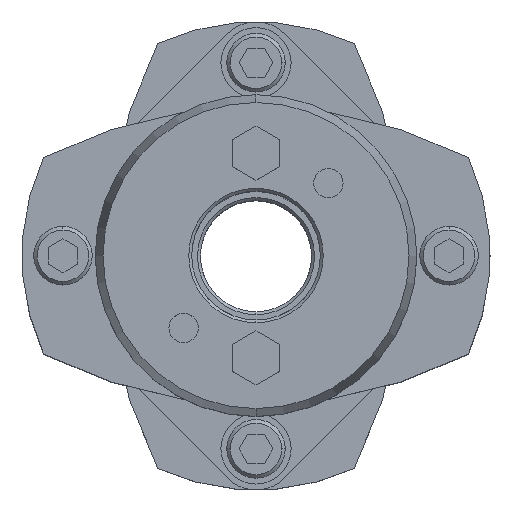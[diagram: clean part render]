
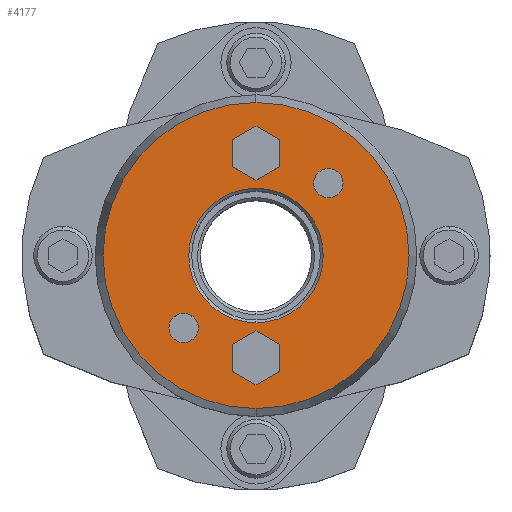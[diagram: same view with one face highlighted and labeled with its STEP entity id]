
A CAD part, top view. The second image highlights one B-rep face of the part: STEP entity #4177.
In plain terms, the highlighted planar face has unit normal (0, 0, 1).
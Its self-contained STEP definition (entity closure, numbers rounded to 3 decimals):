
#2291=CARTESIAN_POINT('',(0.,11.5,45.25));
#2292=VERTEX_POINT('',#2291);
#2308=CARTESIAN_POINT('',(0.,-11.5,45.25));
#2309=VERTEX_POINT('',#2308);
#2316=CARTESIAN_POINT('',(0.,0.,45.25));
#2317=DIRECTION('',(0.0,0.0,1.0));
#2318=DIRECTION('',(0.,1.0,0.0));
#2319=AXIS2_PLACEMENT_3D('',#2316,#2317,#2318);
#2320=CIRCLE('',#2319,11.5);
#2321=EDGE_CURVE('',#2309,#2292,#2320,.T.);
#2479=CARTESIAN_POINT('',(0.,-26.16,45.25));
#2480=VERTEX_POINT('',#2479);
#2487=CARTESIAN_POINT('',(0.,26.16,45.25));
#2488=VERTEX_POINT('',#2487);
#2489=CARTESIAN_POINT('',(0.,0.,45.25));
#2490=DIRECTION('',(0.0,0.0,-1.0));
#2491=DIRECTION('',(0.,-1.0,0.0));
#2492=AXIS2_PLACEMENT_3D('',#2489,#2490,#2491);
#2493=CIRCLE('',#2492,26.16);
#2494=EDGE_CURVE('',#2480,#2488,#2493,.T.);
#2589=CARTESIAN_POINT('',(12.374,14.874,45.25));
#2590=VERTEX_POINT('',#2589);
#2606=CARTESIAN_POINT('',(12.374,9.874,45.25));
#2607=VERTEX_POINT('',#2606);
#2614=CARTESIAN_POINT('',(12.374,12.374,45.25));
#2615=DIRECTION('',(0.0,0.0,-1.0));
#2616=DIRECTION('',(0.,1.0,0.0));
#2617=AXIS2_PLACEMENT_3D('',#2614,#2615,#2616);
#2618=CIRCLE('',#2617,2.5);
#2619=EDGE_CURVE('',#2590,#2607,#2618,.T.);
#2631=CARTESIAN_POINT('',(-12.374,-9.874,45.25));
#2632=VERTEX_POINT('',#2631);
#2648=CARTESIAN_POINT('',(-12.374,-14.874,45.25));
#2649=VERTEX_POINT('',#2648);
#2656=CARTESIAN_POINT('',(-12.374,-12.374,45.25));
#2657=DIRECTION('',(0.0,0.0,-1.0));
#2658=DIRECTION('',(0.,1.0,0.0));
#2659=AXIS2_PLACEMENT_3D('',#2656,#2657,#2658);
#2660=CIRCLE('',#2659,2.5);
#2661=EDGE_CURVE('',#2632,#2649,#2660,.T.);
#3421=CARTESIAN_POINT('',(0.,22.119,45.25));
#3422=VERTEX_POINT('',#3421);
#3429=CARTESIAN_POINT('',(-4.,19.809,45.25));
#3430=VERTEX_POINT('',#3429);
#3431=CARTESIAN_POINT('',(-4.,19.809,45.25));
#3432=DIRECTION('',(0.866,0.5,0.0));
#3433=VECTOR('',#3432,4.619);
#3434=LINE('',#3431,#3433);
#3435=EDGE_CURVE('',#3430,#3422,#3434,.T.);
#3459=CARTESIAN_POINT('',(4.,19.809,45.25));
#3460=VERTEX_POINT('',#3459);
#3467=CARTESIAN_POINT('',(0.,22.119,45.25));
#3468=DIRECTION('',(0.866,-0.5,0.0));
#3469=VECTOR('',#3468,4.619);
#3470=LINE('',#3467,#3469);
#3471=EDGE_CURVE('',#3422,#3460,#3470,.T.);
#3490=CARTESIAN_POINT('',(4.,15.191,45.25));
#3491=VERTEX_POINT('',#3490);
#3498=CARTESIAN_POINT('',(4.,19.809,45.25));
#3499=DIRECTION('',(0.,-1.0,0.0));
#3500=VECTOR('',#3499,4.619);
#3501=LINE('',#3498,#3500);
#3502=EDGE_CURVE('',#3460,#3491,#3501,.T.);
#3521=CARTESIAN_POINT('',(0.,12.881,45.25));
#3522=VERTEX_POINT('',#3521);
#3529=CARTESIAN_POINT('',(4.,15.191,45.25));
#3530=DIRECTION('',(-0.866,-0.5,0.0));
#3531=VECTOR('',#3530,4.619);
#3532=LINE('',#3529,#3531);
#3533=EDGE_CURVE('',#3491,#3522,#3532,.T.);
#3552=CARTESIAN_POINT('',(-4.,15.191,45.25));
#3553=VERTEX_POINT('',#3552);
#3560=CARTESIAN_POINT('',(0.,12.881,45.25));
#3561=DIRECTION('',(-0.866,0.5,0.0));
#3562=VECTOR('',#3561,4.619);
#3563=LINE('',#3560,#3562);
#3564=EDGE_CURVE('',#3522,#3553,#3563,.T.);
#3582=CARTESIAN_POINT('',(-4.,15.191,45.25));
#3583=DIRECTION('',(0.,1.0,0.0));
#3584=VECTOR('',#3583,4.619);
#3585=LINE('',#3582,#3584);
#3586=EDGE_CURVE('',#3553,#3430,#3585,.T.);
#3621=CARTESIAN_POINT('',(0.,-12.881,45.25));
#3622=VERTEX_POINT('',#3621);
#3629=CARTESIAN_POINT('',(-4.,-15.191,45.25));
#3630=VERTEX_POINT('',#3629);
#3631=CARTESIAN_POINT('',(-4.,-15.191,45.25));
#3632=DIRECTION('',(0.866,0.5,0.0));
#3633=VECTOR('',#3632,4.619);
#3634=LINE('',#3631,#3633);
#3635=EDGE_CURVE('',#3630,#3622,#3634,.T.);
#3659=CARTESIAN_POINT('',(4.,-15.191,45.25));
#3660=VERTEX_POINT('',#3659);
#3667=CARTESIAN_POINT('',(0.,-12.881,45.25));
#3668=DIRECTION('',(0.866,-0.5,0.0));
#3669=VECTOR('',#3668,4.619);
#3670=LINE('',#3667,#3669);
#3671=EDGE_CURVE('',#3622,#3660,#3670,.T.);
#3690=CARTESIAN_POINT('',(4.,-19.809,45.25));
#3691=VERTEX_POINT('',#3690);
#3698=CARTESIAN_POINT('',(4.,-15.191,45.25));
#3699=DIRECTION('',(0.,-1.0,0.0));
#3700=VECTOR('',#3699,4.619);
#3701=LINE('',#3698,#3700);
#3702=EDGE_CURVE('',#3660,#3691,#3701,.T.);
#3721=CARTESIAN_POINT('',(0.,-22.119,45.25));
#3722=VERTEX_POINT('',#3721);
#3729=CARTESIAN_POINT('',(4.,-19.809,45.25));
#3730=DIRECTION('',(-0.866,-0.5,0.0));
#3731=VECTOR('',#3730,4.619);
#3732=LINE('',#3729,#3731);
#3733=EDGE_CURVE('',#3691,#3722,#3732,.T.);
#3752=CARTESIAN_POINT('',(-4.,-19.809,45.25));
#3753=VERTEX_POINT('',#3752);
#3760=CARTESIAN_POINT('',(0.,-22.119,45.25));
#3761=DIRECTION('',(-0.866,0.5,0.0));
#3762=VECTOR('',#3761,4.619);
#3763=LINE('',#3760,#3762);
#3764=EDGE_CURVE('',#3722,#3753,#3763,.T.);
#3782=CARTESIAN_POINT('',(-4.,-19.809,45.25));
#3783=DIRECTION('',(0.,1.0,0.0));
#3784=VECTOR('',#3783,4.619);
#3785=LINE('',#3782,#3784);
#3786=EDGE_CURVE('',#3753,#3630,#3785,.T.);
#3812=CARTESIAN_POINT('',(-12.374,-12.374,45.25));
#3813=DIRECTION('',(0.0,0.0,-1.0));
#3814=DIRECTION('',(0.,1.0,0.0));
#3815=AXIS2_PLACEMENT_3D('',#3812,#3813,#3814);
#3816=CIRCLE('',#3815,2.5);
#3817=EDGE_CURVE('',#2649,#2632,#3816,.T.);
#3846=CARTESIAN_POINT('',(12.374,12.374,45.25));
#3847=DIRECTION('',(0.0,0.0,-1.0));
#3848=DIRECTION('',(0.,1.0,0.0));
#3849=AXIS2_PLACEMENT_3D('',#3846,#3847,#3848);
#3850=CIRCLE('',#3849,2.5);
#3851=EDGE_CURVE('',#2607,#2590,#3850,.T.);
#4124=CARTESIAN_POINT('',(0.,0.,45.25));
#4125=DIRECTION('',(0.0,0.0,-1.0));
#4126=DIRECTION('',(0.,-1.0,0.0));
#4127=AXIS2_PLACEMENT_3D('',#4124,#4125,#4126);
#4128=CIRCLE('',#4127,26.16);
#4129=EDGE_CURVE('',#2488,#2480,#4128,.T.);
#4134=CARTESIAN_POINT('',(0.,2.364,45.25));
#4135=DIRECTION('',(0.0,0.0,1.0));
#4136=DIRECTION('',(0.,1.0,0.0));
#4137=AXIS2_PLACEMENT_3D('',#4134,#4135,#4136);
#4138=PLANE('',#4137);
#4139=ORIENTED_EDGE('',*,*,#4129,.F.);
#4140=ORIENTED_EDGE('',*,*,#2494,.F.);
#4141=EDGE_LOOP('',(#4139,#4140));
#4142=FACE_OUTER_BOUND('',#4141,.T.);
#4143=ORIENTED_EDGE('',*,*,#3435,.T.);
#4144=ORIENTED_EDGE('',*,*,#3471,.T.);
#4145=ORIENTED_EDGE('',*,*,#3502,.T.);
#4146=ORIENTED_EDGE('',*,*,#3533,.T.);
#4147=ORIENTED_EDGE('',*,*,#3564,.T.);
#4148=ORIENTED_EDGE('',*,*,#3586,.T.);
#4149=EDGE_LOOP('',(#4143,#4144,#4145,#4146,#4147,#4148));
#4150=FACE_BOUND('',#4149,.T.);
#4151=ORIENTED_EDGE('',*,*,#3635,.T.);
#4152=ORIENTED_EDGE('',*,*,#3671,.T.);
#4153=ORIENTED_EDGE('',*,*,#3702,.T.);
#4154=ORIENTED_EDGE('',*,*,#3733,.T.);
#4155=ORIENTED_EDGE('',*,*,#3764,.T.);
#4156=ORIENTED_EDGE('',*,*,#3786,.T.);
#4157=EDGE_LOOP('',(#4151,#4152,#4153,#4154,#4155,#4156));
#4158=FACE_BOUND('',#4157,.T.);
#4159=ORIENTED_EDGE('',*,*,#2661,.T.);
#4160=ORIENTED_EDGE('',*,*,#3817,.T.);
#4161=EDGE_LOOP('',(#4159,#4160));
#4162=FACE_BOUND('',#4161,.T.);
#4163=ORIENTED_EDGE('',*,*,#2619,.T.);
#4164=ORIENTED_EDGE('',*,*,#3851,.T.);
#4165=EDGE_LOOP('',(#4163,#4164));
#4166=FACE_BOUND('',#4165,.T.);
#4167=ORIENTED_EDGE('',*,*,#2321,.F.);
#4168=CARTESIAN_POINT('',(0.,0.,45.25));
#4169=DIRECTION('',(0.0,0.0,1.0));
#4170=DIRECTION('',(0.,1.0,0.0));
#4171=AXIS2_PLACEMENT_3D('',#4168,#4169,#4170);
#4172=CIRCLE('',#4171,11.5);
#4173=EDGE_CURVE('',#2292,#2309,#4172,.T.);
#4174=ORIENTED_EDGE('',*,*,#4173,.F.);
#4175=EDGE_LOOP('',(#4167,#4174));
#4176=FACE_BOUND('',#4175,.T.);
#4177=ADVANCED_FACE('',(#4142,#4150,#4158,#4162,#4166,#4176),#4138,.T.);
